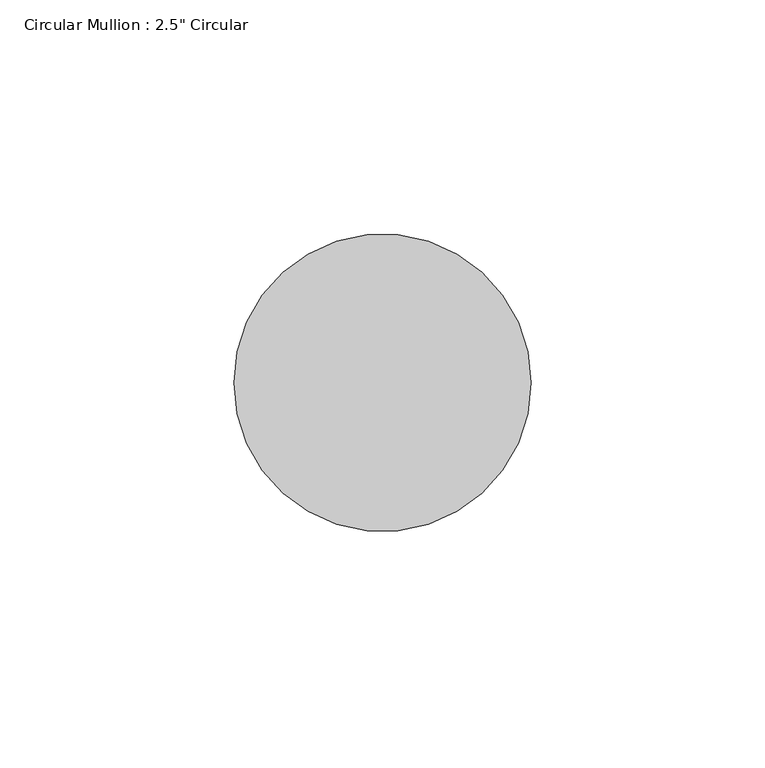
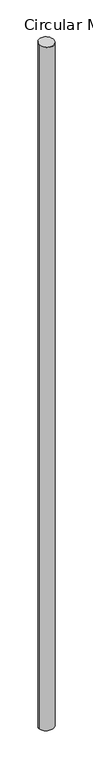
"""IFC4 building model written with IfcOpenShell, lengths in millimetres: member geometry."""

from ifc_helpers import new_model, si_unit, frame, origin, origin_with_axes, place, context, project, spatial, ellipse_curve, source, transform, mapped, element, save
from ifc_brep_helpers import plane_surface, cylinder_surface, advanced_brep


def member_71e1ef4e(model_context):
    return source(origin(), model_context, "Body", "AdvancedBrep", [
        advanced_brep(
        [(-31.75, 0.0, 0.5005116), (31.75, 0.0, -0.5005116), (31.75, 0.0, -3087.1674588), (-31.75, 0.0, -3087.8876593)],
        [
            (0, 1, ellipse_curve(frame((0.0, 0.0, 0.0), z_axis=(-0.015716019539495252, 0.07648192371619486, -0.9969471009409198), x_axis=(-0.20066663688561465, 0.9765430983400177, 0.07807994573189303)), 31.8472264, 31.75)),
            (1, 2),
            (2, 3, ellipse_curve(frame((0.0, 0.0, -3087.527559), z_axis=(-0.011324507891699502, 0.053926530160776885, 0.9984806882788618), x_axis=(0.20520388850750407, -0.977166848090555, 0.055102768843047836)), 31.7983115, 31.75)),
            (3, 0),
            (1, 0, ellipse_curve(frame((0.0, 0.0, 0.0), z_axis=(-0.015716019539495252, 0.07648192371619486, -0.9969471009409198), x_axis=(-0.20066663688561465, 0.9765430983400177, 0.07807994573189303)), 31.8472264, 31.75)),
            (3, 2, ellipse_curve(frame((0.0, 0.0, -3087.527559), z_axis=(-0.011324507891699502, 0.053926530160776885, 0.9984806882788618), x_axis=(0.20520388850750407, -0.977166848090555, 0.055102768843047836)), 31.7983115, 31.75)),
        ],
        [
            cylinder_surface(origin_with_axes(), 31.75),
            plane_surface(frame((298.5618155, 61.3504878, 0.0), z_axis=(0.015716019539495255, -0.07648192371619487, 0.99694710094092), x_axis=(0.20066663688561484, -0.9765430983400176, -0.07807994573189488))),
            plane_surface(frame((298.2936563, 62.6413169, -3087.527559), z_axis=(0.011324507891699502, -0.053926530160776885, -0.9984806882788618), x_axis=(0.2052038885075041, -0.9771668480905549, 0.055102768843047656))),
        ],
        [
            (0, [[1, 2, 3, 4]]),
            (0, [[5, -4, 6, -2]]),
            (1, [[-1, -5]]),
            (2, [[-6, -3]]),
        ],
    ),
    ])


if __name__ == "__main__":
    model = new_model("IFC4")
    model_context = context("Model", 3, world=origin())
    ifc_project = project(units=[si_unit("LENGTHUNIT", "METRE", prefix="MILLI")], contexts=[model_context])
    site = spatial("IfcSite", under=ifc_project)
    building = spatial("IfcBuilding", under=site)
    placement = place(None, origin())
    member_shape = member_71e1ef4e(model_context)
    element("IfcMember", 1, ObjectType="Circular Mullion : 2.5\" Circular", at=placement, inside=building, context=model_context, shape_type="MappedRepresentation", body=[
        mapped(member_shape, transform((0.0, 0.0, 0.0), x_axis=(1.0, 0.0, 0.0), y_axis=(0.0, 1.0, 0.0), z_axis=(0.0, 0.0, 1.0))),
    ])
    save(model, "model.ifc")
